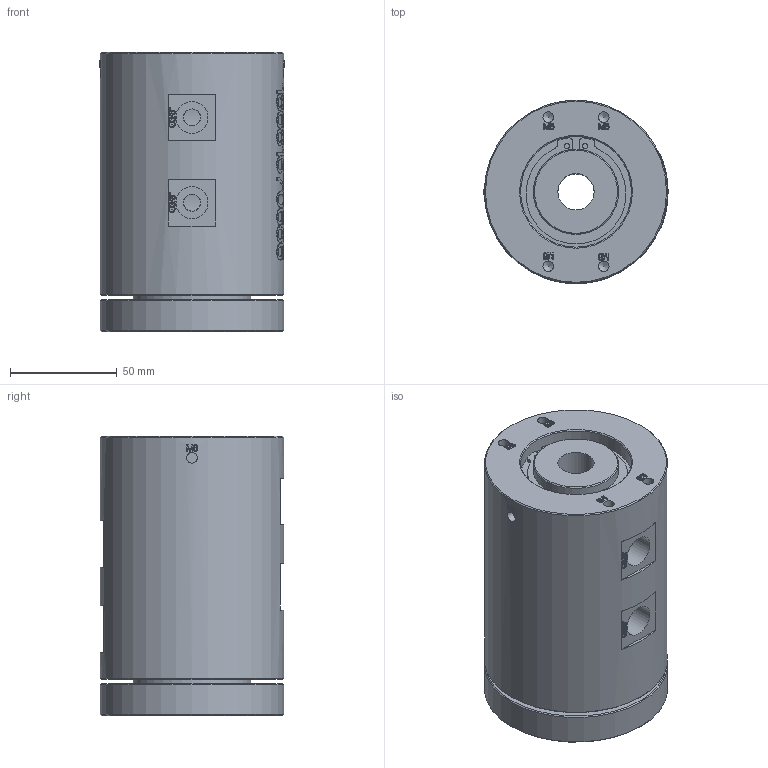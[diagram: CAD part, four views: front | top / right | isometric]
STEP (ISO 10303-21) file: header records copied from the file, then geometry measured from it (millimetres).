
FILE_DESCRIPTION(/* description */ (''),/* implementation_level */ '2;1');
FILE_NAME(/* name */ 'HQD0403-3D模型.stp',/* time_stamp */ '2025-09-25T16:58:03+08:00',/* author */ (''),/* organization */ (''),/* preprocessor_version */ 'ST-DEVELOPER v16.7',/* originating_system */ 'SIEMENS PLM Software NX 12.0',/* authorisation */ '');
FILE_SCHEMA (('AUTOMOTIVE_DESIGN { 1 0 10303 214 3 1 1 1 }'));
Products named in the file (1): Admi4334A7244hzz
Bounding box: 86.4 x 86 x 131.4 mm (x, y, z)
Volume: 695098.1 mm3; surface area: 70199.2 mm2
Topology: 1 solids, 1 shells, 2024 faces, 5600 edges, 3733 vertices
Faces by surface type: extrusion 1265, plane 586, bspline 94, cylinder 64, cone 15
Full cylindrical faces by diameter (mm): 2.5 x2, 5 x10, 8 x8, 15 x8, 17 x1, 37.5 x1, 40 x1, 52 x1, 55 x1, 65 x1, 86 x2
Entity records: 77936 total; most frequent: CARTESIAN_POINT 35517, ORIENTED_EDGE 11016, B_SPLINE_CURVE_WITH_KNOTS 5739, EDGE_CURVE 5508, DIRECTION 3887, VERTEX_POINT 3702, EDGE_LOOP 2234, VECTOR 2043
